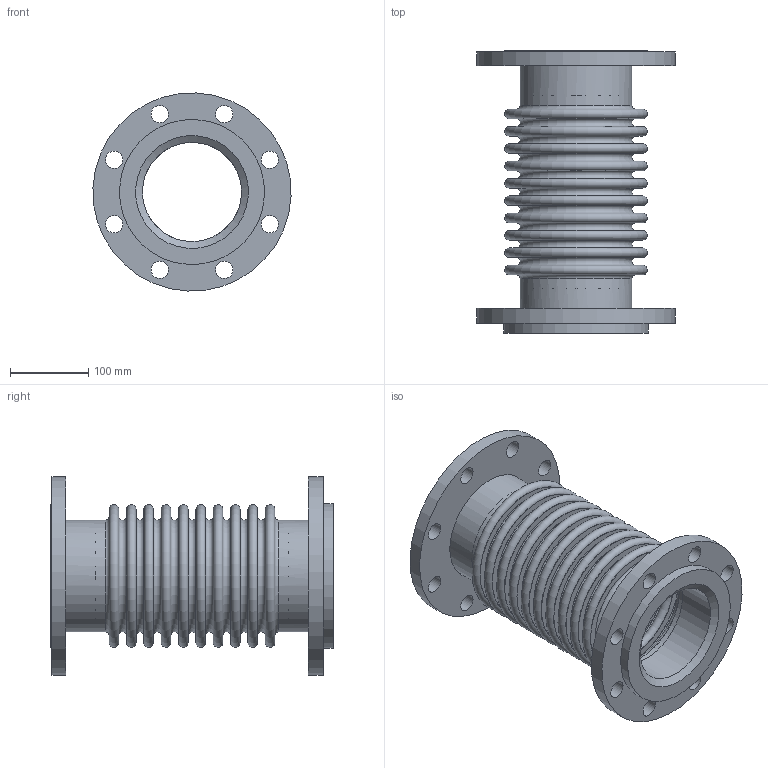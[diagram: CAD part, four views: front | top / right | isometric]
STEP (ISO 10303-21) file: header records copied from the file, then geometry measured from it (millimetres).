
FILE_DESCRIPTION(/* description */ (''),/* implementation_level */ '2;1');
FILE_NAME(/* name */ 'C:\001_Work\Designs\EFL250-ASA150LB\EFL250-5x14.25 (ASA150LB).stp',/* time_stamp */ '2016-05-10T23:57:09-04:00',/* author */ ('rramoutar'),/* organization */ ('Mason Industries Inc.'),/* preprocessor_version */ 'ST-DEVELOPER v15.6',/* originating_system */ 'Autodesk Inventor 2015',/* authorisation */ '');
FILE_SCHEMA (('CONFIG_CONTROL_DESIGN'));
Length unit declared in the file: inch
Products named in the file (1): EFL250-5x14.25-ASA150LB
Bounding box: 253.76 x 361.95 x 253.76 mm (x, y, z)
Volume: 1928949.1 mm3; surface area: 860346.4 mm2
Topology: 1 solids, 1 shells, 125 faces, 236 edges, 162 vertices
Faces by surface type: plane 51, torus 42, cylinder 28, cone 4
Full cylindrical faces by diameter (mm): 22.225 x16, 127 x2, 140.843 x2, 142.875 x2, 144.463 x3, 185.737 x1, 254 x2
Entity records: 2897 total; most frequent: DIRECTION 534, CARTESIAN_POINT 408, EDGE_LOOP 282, ORIENTED_EDGE 282, AXIS2_PLACEMENT_3D 267, FACE_BOUND 157, CIRCLE 141, VERTEX_POINT 141
